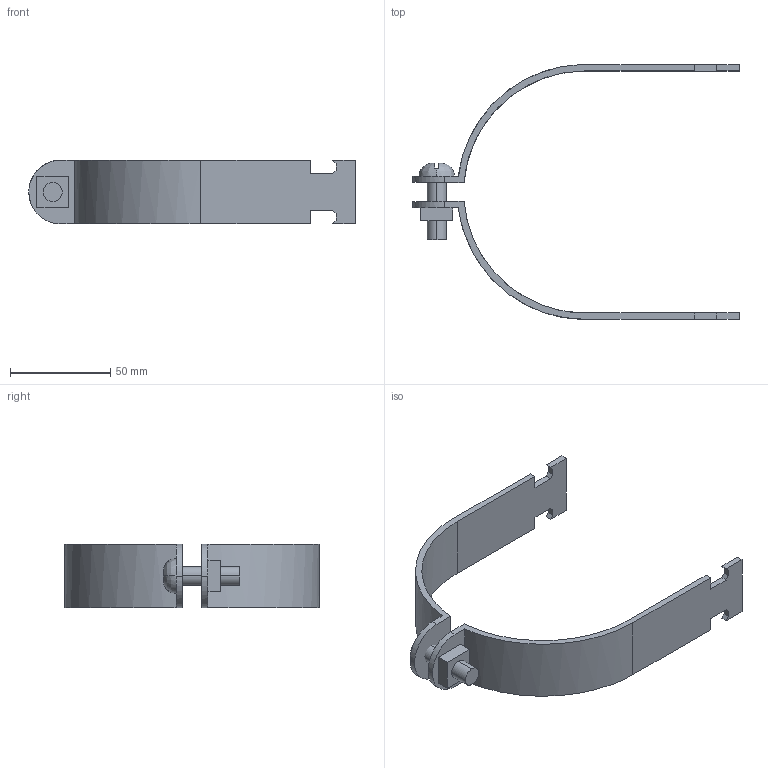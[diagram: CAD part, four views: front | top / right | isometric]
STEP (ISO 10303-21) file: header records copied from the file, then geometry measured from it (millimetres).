
FILE_DESCRIPTION(('TurboCAD Mac Pro'),'Build 980');
FILE_NAME('P2060.stp',' ',(''),(''),'ACIS Interop','IMSI','TurboCAD Mac Pro BY IMSI, INCORPORATED');
FILE_SCHEMA(('automotive_design'));
Length unit declared in the file: inch
Products named in the file (5): 1; 2; 3; 4; 5
Bounding box: 162.72 x 127 x 31.75 mm (x, y, z)
Volume: 41431.1 mm3; surface area: 28851.5 mm2
Topology: 4 solids, 4 shells, 71 faces, 186 edges, 124 vertices
Faces by surface type: plane 51, bspline 20
Entity records: 3435 total; most frequent: CARTESIAN_POINT 1034, ORIENTED_EDGE 372, DIRECTION 258, EDGE_CURVE 186, LINE 138, VECTOR 138, VERTEX_POINT 124, STYLED_ITEM 87
